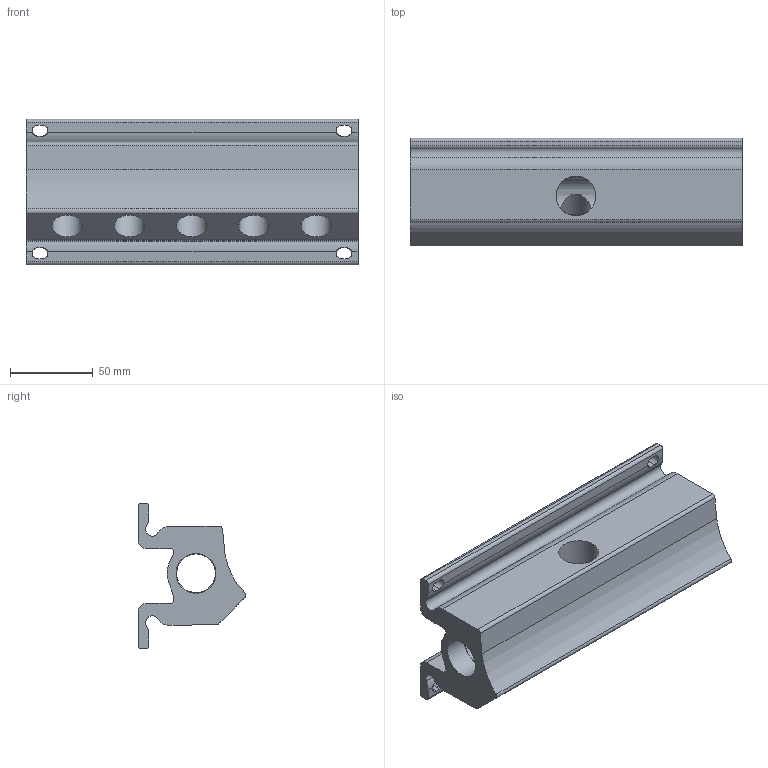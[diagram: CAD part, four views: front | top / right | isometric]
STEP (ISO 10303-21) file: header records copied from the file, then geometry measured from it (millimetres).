
FILE_DESCRIPTION( ( 'STEP AP214' ), '1' );
FILE_NAME( ' ', ' ', ( ' ' ), ( ' ' ), 'PSStep 11.0', 'VISI 17.0', ' ' );
FILE_SCHEMA( ( 'AUTOMOTIVE_DESIGN { 1 0 10303 214 1 1 1 1 }' ) );
Length unit declared in the file: millimetre
Products named in the file (1): 1
Bounding box: 201.1 x 65.16 x 88.24 mm (x, y, z)
Volume: 427748.6 mm3; surface area: 92106.2 mm2
Topology: 1 solids, 1 shells, 77 faces, 249 edges, 165 vertices
Faces by surface type: cylinder 41, plane 24, cone 12
Full cylindrical faces by diameter (mm): 11.445 x1, 18.633 x5, 23.5 x1, 24.12 x3
Entity records: 3822 total; most frequent: CARTESIAN_POINT 1137, ORIENTED_EDGE 424, DIRECTION 421, EDGE_CURVE 212, AXIS2_PLACEMENT_3D 161, VERTEX_POINT 147, EDGE_LOOP 108, LINE 99
